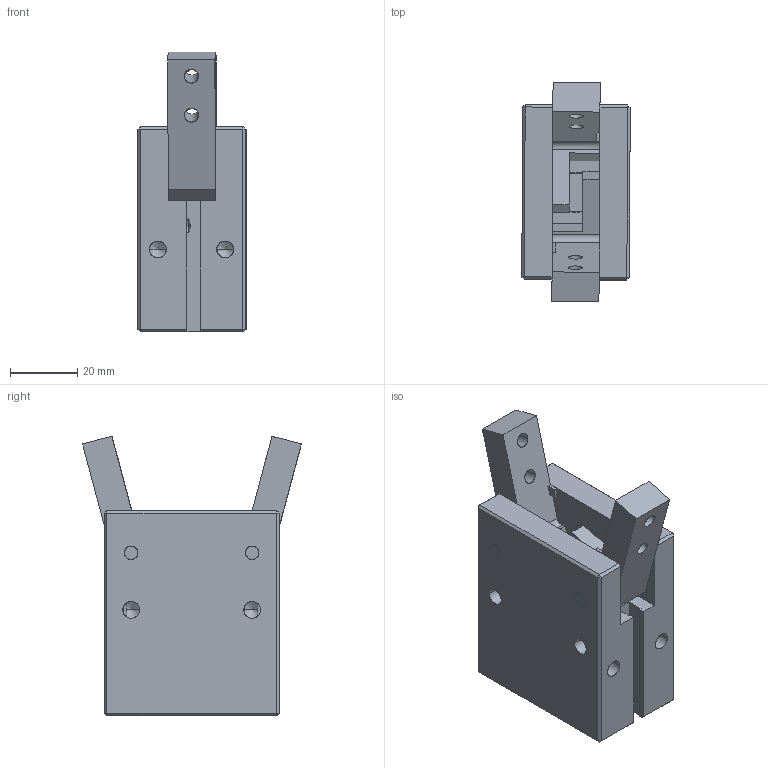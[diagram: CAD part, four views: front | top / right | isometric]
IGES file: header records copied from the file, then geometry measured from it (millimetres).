
Start section: SolidWorks IGES file using analytic representation for surfaces
Global section: file name: C:\Documents and Settings\SGA\Bureau\GDS.25\GDS.25-OPEN.IGS; native system: SolidWorks 2010; preprocessor: SolidWorks 2010; author: SGA; date: 111020.135150; units: millimetre
Bounding box: 32.26 x 65.11 x 83.17 mm (x, y, z)
Surface area: 27971 mm2 (no closed solid volume)
Topology: 0 solids, 0 shells, 587 faces, 6560 edges, 6544 vertices
Faces by surface type: bspline 523, revolution 64
